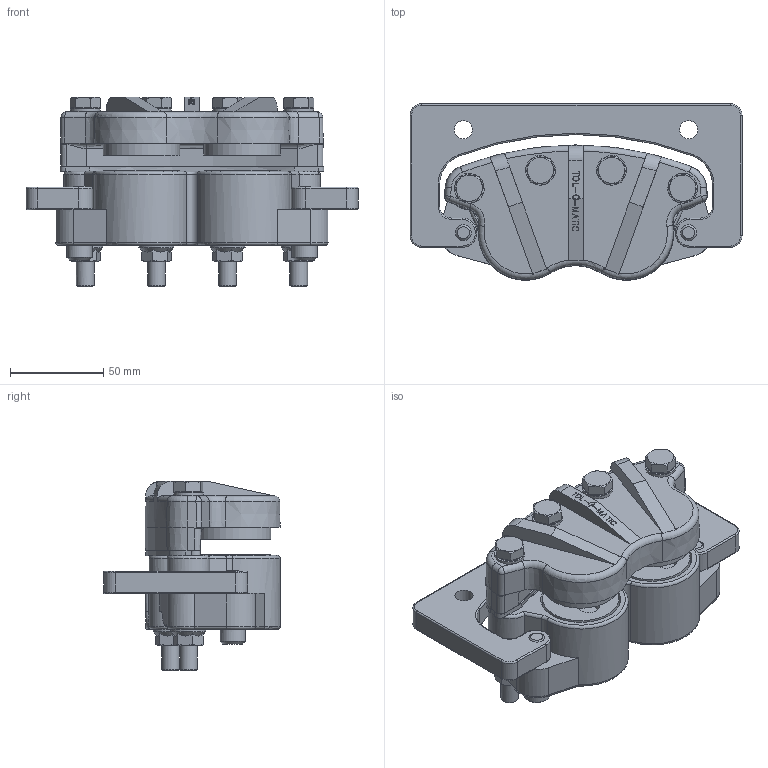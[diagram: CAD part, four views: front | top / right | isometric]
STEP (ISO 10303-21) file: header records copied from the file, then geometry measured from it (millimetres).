
FILE_DESCRIPTION (( 'STEP AP203' ), '1' );
FILE_NAME ('07330120_07330120-475151-1.step', '2024-11-18T13:39:27', ( '' ), ( '' ), 'SwSTEP 2.0', 'SolidWorks 2024', '' );
FILE_SCHEMA (( 'CONFIG_CONTROL_DESIGN' ));
Length unit declared in the file: inch
Products named in the file (2): 07330120_07330120-475151-1; Base_07330120_07330120-475151-1
Assembly tree (1 placements, depth 2):
  07330120_07330120-475151-1
    Base_07330120_07330120-475151-1
Bounding box: 177.8 x 94.47 x 101.55 mm (x, y, z)
Volume: 549355.4 mm3; surface area: 94587.5 mm2
Topology: 12 solids, 13 shells, 1572 faces, 4156 edges, 2680 vertices
Faces by surface type: plane 1197, cylinder 175, torus 120, cone 42, bspline 28, sphere 10
Full cylindrical faces by diameter (mm): 3.962 x1, 8.433 x4, 8.731 x1, 9.525 x12, 9.804 x2, 9.906 x4, 10.312 x4, 11.1 x4, 11.176 x2, 13.627 x2, 14.275 x6, 15.875 x4, 18.771 x4, 40.894 x4, 44.45 x2
Entity records: 49533 total; most frequent: CARTESIAN_POINT 11151, ORIENTED_EDGE 7996, DIRECTION 7539, EDGE_CURVE 3998, VECTOR 3119, LINE 3119, VERTEX_POINT 2630, AXIS2_PLACEMENT_3D 2210
